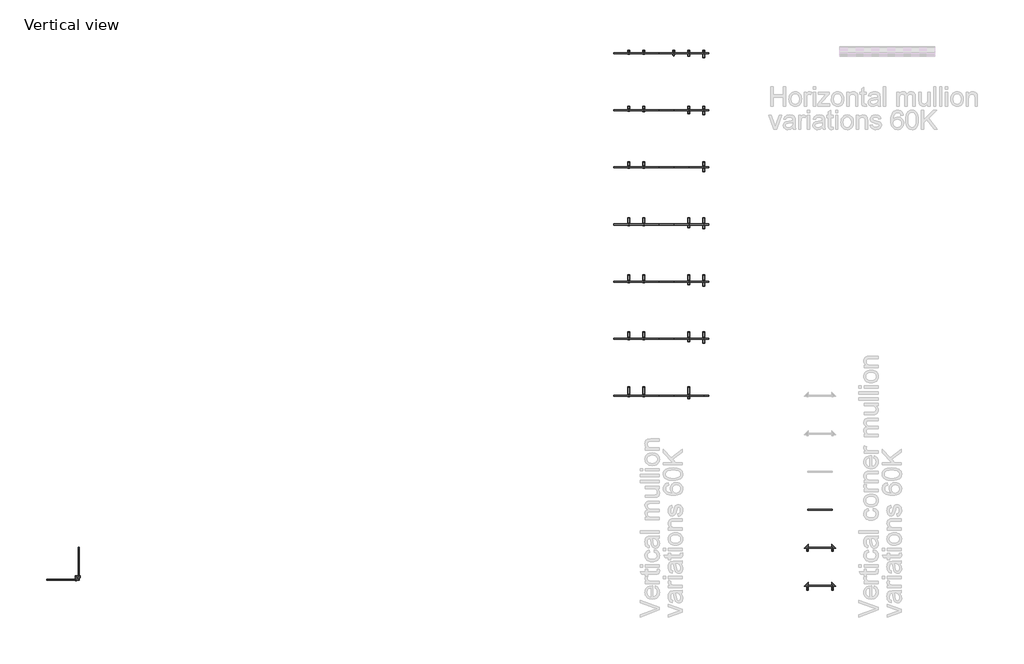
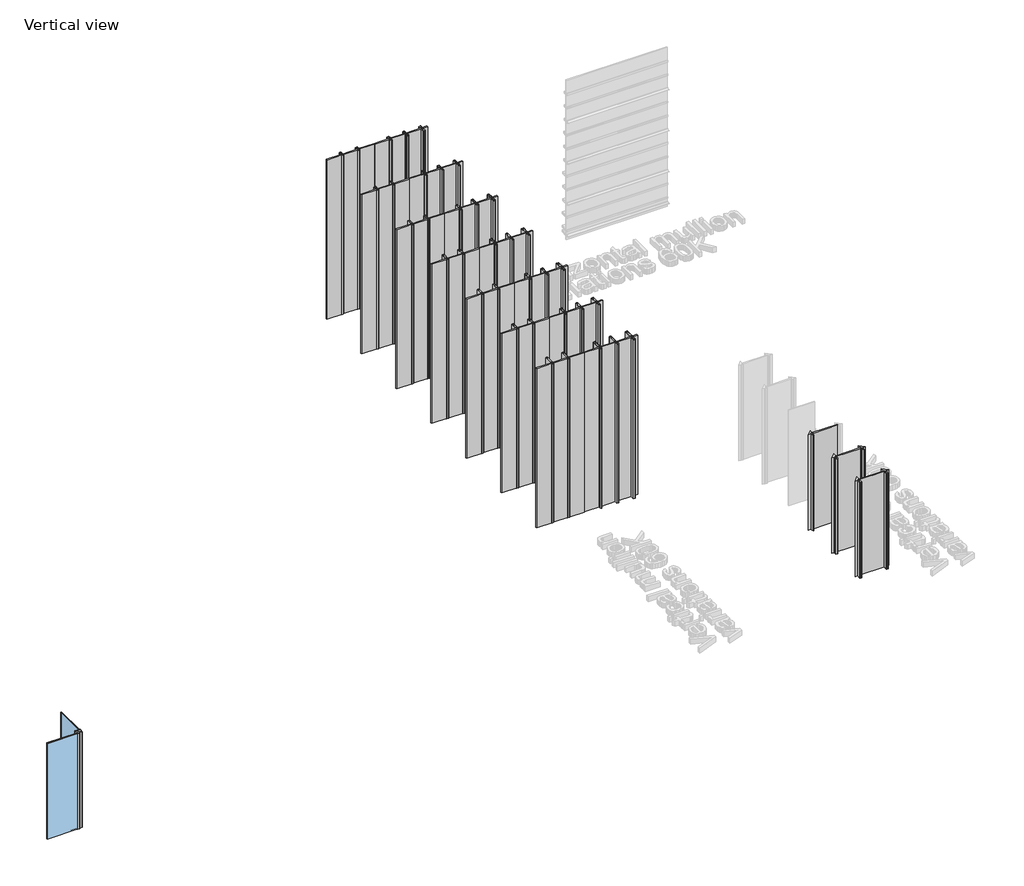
# One storey, part 1 of 8: 52 plates, 42 members, 2 windows.
"""IFC4 building model written with IfcOpenShell, lengths in millimetres."""

from ifc_helpers import new_model, si_unit, origin, place, context, project, spatial, transform, mapped, element, save
from components import rectangular_mullion_bac8aaa5, rectangular_mullion_d6cc62e9, rectangular_mullion_3a4dfd3a, rectangular_mullion_0c3e5d3c, rectangular_mullion_3d548132, rectangular_mullion_e379f3d9, rectangular_mullion_30acf88c, rectangular_mullion_7999ed0b, rectangular_mullion_8fff6d0e, rectangular_mullion_fmo60_118_fm60_11_780ca703, rectangular_mullion_fmo60_118_fm60_120_f7351382, rectangular_mullion_fmo60_118_fm60_17_fe835b84, rectangular_mullion_fmo60_118_fm60_80_52852f34, rectangular_mullion_fmo60_118_fm60_81_b4118012, rectangular_mullion_fmo60_200_fm60_11_f44af860, rectangular_mullion_fmo60_200_fm60_120_6c0fddd4, rectangular_mullion_fmo60_200_fm60_80_63721d11, rectangular_mullion_fmo60_200_fm60_81_2de17ba8, rectangular_mullion_fmo60_202_fm60_11_6de17c08, rectangular_mullion_fmo60_202_fm60_17_0408b8b0, rectangular_mullion_fmo60_202_fm60_80_f4d952df, rectangular_mullion_fmo60_202_fm60_81_e3a3c47a, rectangular_mullion_fmo60_270_fm60_11_9d2d0bc5, rectangular_mullion_fmo60_270_fm60_120_8979f5e6, rectangular_mullion_fmo60_270_fm60_17_746ea6a6, rectangular_mullion_fmo60_270_fm60_80_afe78c0d, rectangular_mullion_fmo60_270_fm60_81_629aa333, rectangular_mullion_fmo60_88_fm60_11_5c2764d4, rectangular_mullion_fmo60_88_fm60_120_b0ae386d, rectangular_mullion_fmo60_88_fm60_17_b492b851, rectangular_mullion_fmo60_88_fm60_80_312be118, rectangular_mullion_fmo60_88_fm60_81_48d1233b, rectangular_mullion_fmr60_158_fm60_11_8e278cfa, rectangular_mullion_fmr60_158_fm60_120_02d9d84b, rectangular_mullion_fmr60_158_fm60_80_e0a089fe, rectangular_mullion_fmr60_158_fm60_81_f3bf5128, system_panel_glazed_01cf7e5e, system_panel_glazed_74f318cf, system_panel_glazed_0bdd39fc, system_panel_glazed_34_mm_90ccc8ea, system_panel_glazed_cafef8f0, system_panel_glazed_6ac2c77d, system_panel_glazed_34_mm_9ade0035, system_panel_glazed_34_mm_0fb1e270, system_panel_glazed_65b8b972, system_panel_glazed_cb6aa243, system_panel_glazed_e2c861a8, fixed_panel_02_fixed_panel_02_689d1c14, fixed_panel_02_fixed_panel_02_342271db

model = new_model("IFC4")

# Units and contexts
model_context = context("Model", 3, world=origin())
ifc_project = project(units=[si_unit("LENGTHUNIT", "METRE", prefix="MILLI")], contexts=[model_context])

# Site, building, storey
site = spatial("IfcSite", under=ifc_project)
building = spatial("IfcBuilding", under=site)
storey = spatial("IfcBuildingStorey", under=building, Name="Vertical view", Elevation=0.0)

# Members
placement = place(None, origin())
rectangular_mullion_shape = rectangular_mullion_bac8aaa5(model_context)
element("IfcMember", 1, ObjectType="Rectangular Mullion : FMO60-200-S...FM60-11", at=placement, inside=storey, context=model_context, shape_type="MappedRepresentation", body=[
    mapped(rectangular_mullion_shape, transform((-2896.2455312, -11013.2711063, 0.0), x_axis=(1.0, 0.0, 0.0), y_axis=(0.0, -1.0, 0.0), z_axis=(0.0, 0.0, -1.0))),
])
rectangular_mullion_2_shape = rectangular_mullion_d6cc62e9(model_context)
element("IfcMember", 2, ObjectType="Rectangular Mullion : FMO60-200-S...FM60-17", at=placement, inside=storey, context=model_context, shape_type="MappedRepresentation", body=[
    mapped(rectangular_mullion_2_shape, transform((-2424.0455312, -11013.2711063, 0.0), x_axis=(1.0, 0.0, 0.0), y_axis=(0.0, -1.0, 0.0), z_axis=(0.0, 0.0, -1.0))),
])
rectangular_mullion_3_shape = rectangular_mullion_3a4dfd3a(model_context)
element("IfcMember", 3, ObjectType="Rectangular Mullion : FMO60-200-S...FM60-80", at=placement, inside=storey, context=model_context, shape_type="MappedRepresentation", body=[
    mapped(rectangular_mullion_3_shape, transform((-1479.6455312, -11013.2711063, 0.0), x_axis=(1.0, 0.0, 0.0), y_axis=(0.0, -1.0, 0.0), z_axis=(0.0, 0.0, -1.0))),
])
rectangular_mullion_4_shape = rectangular_mullion_0c3e5d3c(model_context)
element("IfcMember", 4, ObjectType="Rectangular Mullion : FMO60-200-S...FM60-81", at=placement, inside=storey, context=model_context, shape_type="MappedRepresentation", body=[
    mapped(rectangular_mullion_4_shape, transform((-1007.4455312, -11013.2711063, 0.0), x_axis=(1.0, 0.0, 0.0), y_axis=(0.0, -1.0, 0.0), z_axis=(0.0, 0.0, -1.0))),
])
rectangular_mullion_5_shape = rectangular_mullion_3d548132(model_context)
element("IfcMember", 5, ObjectType="Rectangular Mullion : FMO60-200-S...FM60-120", at=placement, inside=storey, context=model_context, shape_type="MappedRepresentation", body=[
    mapped(rectangular_mullion_5_shape, transform((-535.2455312, -11013.2711063, 0.0), x_axis=(1.0, 0.0, 0.0), y_axis=(0.0, -1.0, 0.0), z_axis=(0.0, 0.0, -1.0))),
])
rectangular_mullion_6_shape = rectangular_mullion_e379f3d9(model_context)
element("IfcMember", 6, ObjectType="Rectangular Mullion : FMO053...FM60-17_L", at=placement, inside=storey, context=model_context, shape_type="MappedRepresentation", body=[
    mapped(rectangular_mullion_6_shape, transform((-20253.1324225, -20427.219881, 3000.0), x_axis=(0.0, -1.0, 0.0), y_axis=(1.0, 0.0, 0.0), z_axis=(0.0, 0.0, 1.0))),
])
element("IfcMember", 7, ObjectType="Rectangular Mullion : FMO053...FM60-17_R", at=placement, inside=storey, context=model_context, shape_type="MappedRepresentation", body=[
    mapped(rectangular_mullion_6_shape, transform((-20219.1580351, -20393.2454936, 0.0), x_axis=(1.0, 0.0, 0.0), y_axis=(0.0, -1.0, 0.0), z_axis=(0.0, 0.0, -1.0))),
])
rectangular_mullion_7_shape = rectangular_mullion_30acf88c(model_context)
element("IfcMember", 8, ObjectType="Rectangular Mullion : FMO053...FM60-80_L", at=placement, inside=storey, context=model_context, shape_type="MappedRepresentation", body=[
    mapped(rectangular_mullion_7_shape, transform((2631.4544688, -18208.704744, 3000.0), x_axis=(-1.0, 0.0, 0.0), y_axis=(0.0, -1.0, 0.0), z_axis=(0.0, 0.0, 1.0))),
])
rectangular_mullion_8_shape = rectangular_mullion_7999ed0b(model_context)
element("IfcMember", 9, ObjectType="Rectangular Mullion : FMO053...FM60-81_L", at=placement, inside=storey, context=model_context, shape_type="MappedRepresentation", body=[
    mapped(rectangular_mullion_8_shape, transform((2631.4544688, -19408.704744, 3000.0), x_axis=(-1.0, 0.0, 0.0), y_axis=(0.0, -1.0, 0.0), z_axis=(0.0, 0.0, 1.0))),
])
element("IfcMember", 10, ObjectType="Rectangular Mullion : FMO053...FM60-81_R", at=placement, inside=storey, context=model_context, shape_type="MappedRepresentation", body=[
    mapped(rectangular_mullion_8_shape, transform((3631.4544688, -19408.704744, 0.0), x_axis=(1.0, 0.0, 0.0), y_axis=(0.0, -1.0, 0.0), z_axis=(0.0, 0.0, -1.0))),
])
rectangular_mullion_9_shape = rectangular_mullion_8fff6d0e(model_context)
element("IfcMember", 11, ObjectType="Rectangular Mullion : FMO053...FM60-120_L", at=placement, inside=storey, context=model_context, shape_type="MappedRepresentation", body=[
    mapped(rectangular_mullion_9_shape, transform((2631.4544688, -20608.704744, 3000.0), x_axis=(-1.0, 0.0, 0.0), y_axis=(0.0, -1.0, 0.0), z_axis=(0.0, 0.0, 1.0))),
])
element("IfcMember", 12, ObjectType="Rectangular Mullion : FMO053...FM60-120_R", at=placement, inside=storey, context=model_context, shape_type="MappedRepresentation", body=[
    mapped(rectangular_mullion_9_shape, transform((3631.4544688, -20608.704744, 0.0), x_axis=(1.0, 0.0, 0.0), y_axis=(0.0, -1.0, 0.0), z_axis=(0.0, 0.0, -1.0))),
])
rectangular_mullion_fmo60_118_fm60_11_shape = rectangular_mullion_fmo60_118_fm60_11_780ca703(model_context)
element("IfcMember", 13, ObjectType="Rectangular Mullion : FMO60-118...FM60-11", at=placement, inside=storey, context=model_context, shape_type="MappedRepresentation", body=[
    mapped(rectangular_mullion_fmo60_118_fm60_11_shape, transform((-2896.323309, -5613.2711063, 0.0), x_axis=(1.0, 0.0, 0.0), y_axis=(0.0, -1.0, 0.0), z_axis=(0.0, 0.0, -1.0))),
])
rectangular_mullion_fmo60_118_fm60_120_shape = rectangular_mullion_fmo60_118_fm60_120_f7351382(model_context)
element("IfcMember", 14, ObjectType="Rectangular Mullion : FMO60-118...FM60-120", at=placement, inside=storey, context=model_context, shape_type="MappedRepresentation", body=[
    mapped(rectangular_mullion_fmo60_118_fm60_120_shape, transform((-535.2121979, -5613.2711063, 0.0), x_axis=(1.0, 0.0, 0.0), y_axis=(0.0, -1.0, 0.0), z_axis=(0.0, 0.0, -1.0))),
])
rectangular_mullion_fmo60_118_fm60_17_shape = rectangular_mullion_fmo60_118_fm60_17_fe835b84(model_context)
element("IfcMember", 15, ObjectType="Rectangular Mullion : FMO60-118...FM60-17", at=placement, inside=storey, context=model_context, shape_type="MappedRepresentation", body=[
    mapped(rectangular_mullion_fmo60_118_fm60_17_shape, transform((-2424.1010868, -5613.2711063, 0.0), x_axis=(1.0, 0.0, 0.0), y_axis=(0.0, -1.0, 0.0), z_axis=(0.0, 0.0, -1.0))),
])
rectangular_mullion_fmo60_118_fm60_80_shape = rectangular_mullion_fmo60_118_fm60_80_52852f34(model_context)
element("IfcMember", 16, ObjectType="Rectangular Mullion : FMO60-118...FM60-80", at=placement, inside=storey, context=model_context, shape_type="MappedRepresentation", body=[
    mapped(rectangular_mullion_fmo60_118_fm60_80_shape, transform((-1479.6566423, -5613.2711063, 0.0), x_axis=(1.0, 0.0, 0.0), y_axis=(0.0, -1.0, 0.0), z_axis=(0.0, 0.0, -1.0))),
])
rectangular_mullion_fmo60_118_fm60_81_shape = rectangular_mullion_fmo60_118_fm60_81_b4118012(model_context)
element("IfcMember", 17, ObjectType="Rectangular Mullion : FMO60-118...FM60-81", at=placement, inside=storey, context=model_context, shape_type="MappedRepresentation", body=[
    mapped(rectangular_mullion_fmo60_118_fm60_81_shape, transform((-1007.4344201, -5613.2711063, 0.0), x_axis=(1.0, 0.0, 0.0), y_axis=(0.0, -1.0, 0.0), z_axis=(0.0, 0.0, -1.0))),
])
rectangular_mullion_fmo60_200_fm60_11_shape = rectangular_mullion_fmo60_200_fm60_11_f44af860(model_context)
element("IfcMember", 18, ObjectType="Rectangular Mullion : FMO60-200...FM60-11", at=placement, inside=storey, context=model_context, shape_type="MappedRepresentation", body=[
    mapped(rectangular_mullion_fmo60_200_fm60_11_shape, transform((-2896.2455312, -9213.2711063, 0.0), x_axis=(1.0, 0.0, 0.0), y_axis=(0.0, -1.0, 0.0), z_axis=(0.0, 0.0, -1.0))),
])
rectangular_mullion_fmo60_200_fm60_120_shape = rectangular_mullion_fmo60_200_fm60_120_6c0fddd4(model_context)
element("IfcMember", 19, ObjectType="Rectangular Mullion : FMO60-200...FM60-120", at=placement, inside=storey, context=model_context, shape_type="MappedRepresentation", body=[
    mapped(rectangular_mullion_fmo60_200_fm60_120_shape, transform((-535.2455312, -9213.2711063, 0.0), x_axis=(1.0, 0.0, 0.0), y_axis=(0.0, -1.0, 0.0), z_axis=(0.0, 0.0, -1.0))),
])
element("IfcMember", 20, ObjectType="Rectangular Mullion : FMO60-200...FM60-120", at=placement, inside=storey, context=model_context, shape_type="MappedRepresentation", body=[
    mapped(rectangular_mullion_fmo60_200_fm60_120_shape, transform((-535.2455312, -12813.2711063, 0.0), x_axis=(1.0, 0.0, 0.0), y_axis=(0.0, -1.0, 0.0), z_axis=(0.0, 0.0, -1.0))),
])
element("IfcMember", 21, ObjectType="Rectangular Mullion : FMO60-200...FM60-17", at=placement, inside=storey, context=model_context, shape_type="MappedRepresentation", body=[
    mapped(rectangular_mullion_2_shape, transform((-2424.0455312, -9213.2711063, 0.0), x_axis=(1.0, 0.0, 0.0), y_axis=(0.0, -1.0, 0.0), z_axis=(0.0, 0.0, -1.0))),
])
rectangular_mullion_fmo60_200_fm60_80_shape = rectangular_mullion_fmo60_200_fm60_80_63721d11(model_context)
element("IfcMember", 22, ObjectType="Rectangular Mullion : FMO60-200...FM60-80", at=placement, inside=storey, context=model_context, shape_type="MappedRepresentation", body=[
    mapped(rectangular_mullion_fmo60_200_fm60_80_shape, transform((-1479.6455312, -9213.2711063, 0.0), x_axis=(1.0, 0.0, 0.0), y_axis=(0.0, -1.0, 0.0), z_axis=(0.0, 0.0, -1.0))),
])
rectangular_mullion_fmo60_200_fm60_81_shape = rectangular_mullion_fmo60_200_fm60_81_2de17ba8(model_context)
element("IfcMember", 23, ObjectType="Rectangular Mullion : FMO60-200...FM60-81", at=placement, inside=storey, context=model_context, shape_type="MappedRepresentation", body=[
    mapped(rectangular_mullion_fmo60_200_fm60_81_shape, transform((-1007.4455312, -9213.2711063, 0.0), x_axis=(1.0, 0.0, 0.0), y_axis=(0.0, -1.0, 0.0), z_axis=(0.0, 0.0, -1.0))),
])
rectangular_mullion_fmo60_202_fm60_11_shape = rectangular_mullion_fmo60_202_fm60_11_6de17c08(model_context)
element("IfcMember", 24, ObjectType="Rectangular Mullion : FMO60-202...FM60-11", at=placement, inside=storey, context=model_context, shape_type="MappedRepresentation", body=[
    mapped(rectangular_mullion_fmo60_202_fm60_11_shape, transform((-2896.3288645, -12813.2711063, 0.0), x_axis=(1.0, 0.0, 0.0), y_axis=(0.0, -1.0, 0.0), z_axis=(0.0, 0.0, -1.0))),
])
rectangular_mullion_fmo60_202_fm60_17_shape = rectangular_mullion_fmo60_202_fm60_17_0408b8b0(model_context)
element("IfcMember", 25, ObjectType="Rectangular Mullion : FMO60-202...FM60-17", at=placement, inside=storey, context=model_context, shape_type="MappedRepresentation", body=[
    mapped(rectangular_mullion_fmo60_202_fm60_17_shape, transform((-2424.1121979, -12813.2711063, 0.0), x_axis=(1.0, 0.0, 0.0), y_axis=(0.0, -1.0, 0.0), z_axis=(0.0, 0.0, -1.0))),
])
rectangular_mullion_fmo60_202_fm60_80_shape = rectangular_mullion_fmo60_202_fm60_80_f4d952df(model_context)
element("IfcMember", 26, ObjectType="Rectangular Mullion : FMO60-202...FM60-80", at=placement, inside=storey, context=model_context, shape_type="MappedRepresentation", body=[
    mapped(rectangular_mullion_fmo60_202_fm60_80_shape, transform((-1479.6788645, -12813.2711063, 0.0), x_axis=(1.0, 0.0, 0.0), y_axis=(0.0, -1.0, 0.0), z_axis=(0.0, 0.0, -1.0))),
])
rectangular_mullion_fmo60_202_fm60_81_shape = rectangular_mullion_fmo60_202_fm60_81_e3a3c47a(model_context)
element("IfcMember", 27, ObjectType="Rectangular Mullion : FMO60-202...FM60-81", at=placement, inside=storey, context=model_context, shape_type="MappedRepresentation", body=[
    mapped(rectangular_mullion_fmo60_202_fm60_81_shape, transform((-1007.4621979, -12813.2711063, 0.0), x_axis=(1.0, 0.0, 0.0), y_axis=(0.0, -1.0, 0.0), z_axis=(0.0, 0.0, -1.0))),
])
rectangular_mullion_fmo60_270_fm60_11_shape = rectangular_mullion_fmo60_270_fm60_11_9d2d0bc5(model_context)
element("IfcMember", 28, ObjectType="Rectangular Mullion : FMO60-270...FM60-11", at=placement, inside=storey, context=model_context, shape_type="MappedRepresentation", body=[
    mapped(rectangular_mullion_fmo60_270_fm60_11_shape, transform((-2896.0455312, -14613.2711063, 0.0), x_axis=(1.0, 0.0, 0.0), y_axis=(0.0, -1.0, 0.0), z_axis=(0.0, 0.0, -1.0))),
])
rectangular_mullion_fmo60_270_fm60_120_shape = rectangular_mullion_fmo60_270_fm60_120_8979f5e6(model_context)
element("IfcMember", 29, ObjectType="Rectangular Mullion : FMO60-270...FM60-120", at=placement, inside=storey, context=model_context, shape_type="MappedRepresentation", body=[
    mapped(rectangular_mullion_fmo60_270_fm60_120_shape, transform((-535.2455312, -14613.2711063, 0.0), x_axis=(1.0, 0.0, 0.0), y_axis=(0.0, -1.0, 0.0), z_axis=(0.0, 0.0, -1.0))),
])
rectangular_mullion_fmo60_270_fm60_17_shape = rectangular_mullion_fmo60_270_fm60_17_746ea6a6(model_context)
element("IfcMember", 30, ObjectType="Rectangular Mullion : FMO60-270...FM60-17", at=placement, inside=storey, context=model_context, shape_type="MappedRepresentation", body=[
    mapped(rectangular_mullion_fmo60_270_fm60_17_shape, transform((-2423.8455312, -14613.2711063, 0.0), x_axis=(1.0, 0.0, 0.0), y_axis=(0.0, -1.0, 0.0), z_axis=(0.0, 0.0, -1.0))),
])
rectangular_mullion_fmo60_270_fm60_80_shape = rectangular_mullion_fmo60_270_fm60_80_afe78c0d(model_context)
element("IfcMember", 31, ObjectType="Rectangular Mullion : FMO60-270...FM60-80", at=placement, inside=storey, context=model_context, shape_type="MappedRepresentation", body=[
    mapped(rectangular_mullion_fmo60_270_fm60_80_shape, transform((-1479.6455312, -14613.2711063, 0.0), x_axis=(1.0, 0.0, 0.0), y_axis=(0.0, -1.0, 0.0), z_axis=(0.0, 0.0, -1.0))),
])
rectangular_mullion_fmo60_270_fm60_81_shape = rectangular_mullion_fmo60_270_fm60_81_629aa333(model_context)
element("IfcMember", 32, ObjectType="Rectangular Mullion : FMO60-270...FM60-81", at=placement, inside=storey, context=model_context, shape_type="MappedRepresentation", body=[
    mapped(rectangular_mullion_fmo60_270_fm60_81_shape, transform((-1007.4455312, -14613.2711063, 0.0), x_axis=(1.0, 0.0, 0.0), y_axis=(0.0, -1.0, 0.0), z_axis=(0.0, 0.0, -1.0))),
])
rectangular_mullion_fmo60_88_fm60_11_shape = rectangular_mullion_fmo60_88_fm60_11_5c2764d4(model_context)
element("IfcMember", 33, ObjectType="Rectangular Mullion : FMO60-88...FM60-11", at=placement, inside=storey, context=model_context, shape_type="MappedRepresentation", body=[
    mapped(rectangular_mullion_fmo60_88_fm60_11_shape, transform((-2896.3288645, -3813.2711063, 0.0), x_axis=(1.0, 0.0, 0.0), y_axis=(0.0, -1.0, 0.0), z_axis=(0.0, 0.0, -1.0))),
])
rectangular_mullion_fmo60_88_fm60_120_shape = rectangular_mullion_fmo60_88_fm60_120_b0ae386d(model_context)
element("IfcMember", 34, ObjectType="Rectangular Mullion : FMO60-88...FM60-120", at=placement, inside=storey, context=model_context, shape_type="MappedRepresentation", body=[
    mapped(rectangular_mullion_fmo60_88_fm60_120_shape, transform((-535.2455312, -3813.2711063, 0.0), x_axis=(1.0, 0.0, 0.0), y_axis=(0.0, -1.0, 0.0), z_axis=(0.0, 0.0, -1.0))),
])
rectangular_mullion_fmo60_88_fm60_17_shape = rectangular_mullion_fmo60_88_fm60_17_b492b851(model_context)
element("IfcMember", 35, ObjectType="Rectangular Mullion : FMO60-88...FM60-17", at=placement, inside=storey, context=model_context, shape_type="MappedRepresentation", body=[
    mapped(rectangular_mullion_fmo60_88_fm60_17_shape, transform((-2424.1121979, -3813.2711063, 0.0), x_axis=(1.0, 0.0, 0.0), y_axis=(0.0, -1.0, 0.0), z_axis=(0.0, 0.0, -1.0))),
])
rectangular_mullion_fmo60_88_fm60_80_shape = rectangular_mullion_fmo60_88_fm60_80_312be118(model_context)
element("IfcMember", 36, ObjectType="Rectangular Mullion : FMO60-88...FM60-80", at=placement, inside=storey, context=model_context, shape_type="MappedRepresentation", body=[
    mapped(rectangular_mullion_fmo60_88_fm60_80_shape, transform((-1479.6788645, -3813.2711063, 0.0), x_axis=(1.0, 0.0, 0.0), y_axis=(0.0, -1.0, 0.0), z_axis=(0.0, 0.0, -1.0))),
])
rectangular_mullion_fmo60_88_fm60_81_shape = rectangular_mullion_fmo60_88_fm60_81_48d1233b(model_context)
element("IfcMember", 37, ObjectType="Rectangular Mullion : FMO60-88...FM60-81", at=placement, inside=storey, context=model_context, shape_type="MappedRepresentation", body=[
    mapped(rectangular_mullion_fmo60_88_fm60_81_shape, transform((-1007.4621979, -3813.2711063, 0.0), x_axis=(1.0, 0.0, 0.0), y_axis=(0.0, -1.0, 0.0), z_axis=(0.0, 0.0, -1.0))),
])
rectangular_mullion_fmr60_158_fm60_11_shape = rectangular_mullion_fmr60_158_fm60_11_8e278cfa(model_context)
element("IfcMember", 38, ObjectType="Rectangular Mullion : FMR60-158...FM60-11", at=placement, inside=storey, context=model_context, shape_type="MappedRepresentation", body=[
    mapped(rectangular_mullion_fmr60_158_fm60_11_shape, transform((-2896.2455312, -7413.2711063, 0.0), x_axis=(1.0, 0.0, 0.0), y_axis=(0.0, -1.0, 0.0), z_axis=(0.0, 0.0, -1.0))),
])
rectangular_mullion_fmr60_158_fm60_120_shape = rectangular_mullion_fmr60_158_fm60_120_02d9d84b(model_context)
element("IfcMember", 39, ObjectType="Rectangular Mullion : FMR60-158...FM60-120", at=placement, inside=storey, context=model_context, shape_type="MappedRepresentation", body=[
    mapped(rectangular_mullion_fmr60_158_fm60_120_shape, transform((-535.2455312, -7413.2711063, 0.0), x_axis=(1.0, 0.0, 0.0), y_axis=(0.0, -1.0, 0.0), z_axis=(0.0, 0.0, -1.0))),
])
element("IfcMember", 40, ObjectType="Rectangular Mullion : FMR60-158...FM60-17", at=placement, inside=storey, context=model_context, shape_type="MappedRepresentation", body=[
    mapped(rectangular_mullion_fmr60_158_fm60_11_shape, transform((-2424.0455312, -7413.2711063, 0.0), x_axis=(1.0, 0.0, 0.0), y_axis=(0.0, -1.0, 0.0), z_axis=(0.0, 0.0, -1.0))),
])
rectangular_mullion_fmr60_158_fm60_80_shape = rectangular_mullion_fmr60_158_fm60_80_e0a089fe(model_context)
element("IfcMember", 41, ObjectType="Rectangular Mullion : FMR60-158...FM60-80", at=placement, inside=storey, context=model_context, shape_type="MappedRepresentation", body=[
    mapped(rectangular_mullion_fmr60_158_fm60_80_shape, transform((-1479.6455312, -7413.2711063, 0.0), x_axis=(1.0, 0.0, 0.0), y_axis=(0.0, -1.0, 0.0), z_axis=(0.0, 0.0, -1.0))),
])
rectangular_mullion_fmr60_158_fm60_81_shape = rectangular_mullion_fmr60_158_fm60_81_f3bf5128(model_context)
element("IfcMember", 42, ObjectType="Rectangular Mullion : FMR60-158...FM60-81", at=placement, inside=storey, context=model_context, shape_type="MappedRepresentation", body=[
    mapped(rectangular_mullion_fmr60_158_fm60_81_shape, transform((-1007.4455312, -7413.2711063, 0.0), x_axis=(1.0, 0.0, 0.0), y_axis=(0.0, -1.0, 0.0), z_axis=(0.0, 0.0, -1.0))),
])

# Plates
system_panel_glazed_shape = system_panel_glazed_01cf7e5e(model_context)
element("IfcPlate", 43, ObjectType="System Panel : Glazed", at=placement, inside=storey, context=model_context, shape_type="MappedRepresentation", body=[
    mapped(system_panel_glazed_shape, transform((-449.3788645, -5613.2711063, 0.0), x_axis=(1.0, 0.0, 0.0), y_axis=(0.0, 1.0, 0.0), z_axis=(0.0, 0.0, 1.0))),
])
system_panel_glazed_2_shape = system_panel_glazed_74f318cf(model_context)
element("IfcPlate", 44, ObjectType="System Panel : Glazed", at=placement, inside=storey, context=model_context, shape_type="MappedRepresentation", body=[
    mapped(system_panel_glazed_2_shape, transform((-3134.9344201, -5613.2711063, 0.0), x_axis=(1.0, 0.0, 0.0), y_axis=(0.0, 1.0, 0.0), z_axis=(0.0, 0.0, 1.0))),
])
system_panel_glazed_3_shape = system_panel_glazed_0bdd39fc(model_context)
element("IfcPlate", 45, ObjectType="System Panel : Glazed", at=placement, inside=storey, context=model_context, shape_type="MappedRepresentation", body=[
    mapped(system_panel_glazed_3_shape, transform((-2660.2121979, -5613.2711063, 0.0), x_axis=(1.0, 0.0, 0.0), y_axis=(0.0, 1.0, 0.0), z_axis=(0.0, 0.0, 1.0))),
])
element("IfcPlate", 46, ObjectType="System Panel : Glazed", at=placement, inside=storey, context=model_context, shape_type="MappedRepresentation", body=[
    mapped(system_panel_glazed_3_shape, transform((-771.323309, -5613.2711063, 0.0), x_axis=(1.0, 0.0, 0.0), y_axis=(0.0, 1.0, 0.0), z_axis=(0.0, 0.0, 1.0))),
])
element("IfcPlate", 47, ObjectType="System Panel : Glazed", at=placement, inside=storey, context=model_context, shape_type="MappedRepresentation", body=[
    mapped(system_panel_glazed_3_shape, transform((-2187.9899756, -5613.2711063, 0.0), x_axis=(1.0, 0.0, 0.0), y_axis=(0.0, 1.0, 0.0), z_axis=(0.0, 0.0, 1.0))),
])
element("IfcPlate", 48, ObjectType="System Panel : Glazed", at=placement, inside=storey, context=model_context, shape_type="MappedRepresentation", body=[
    mapped(system_panel_glazed_3_shape, transform((-1715.7677534, -5613.2711063, 0.0), x_axis=(1.0, 0.0, 0.0), y_axis=(0.0, 1.0, 0.0), z_axis=(0.0, 0.0, 1.0))),
])
element("IfcPlate", 49, ObjectType="System Panel : Glazed", at=placement, inside=storey, context=model_context, shape_type="MappedRepresentation", body=[
    mapped(system_panel_glazed_3_shape, transform((-1243.5455312, -5613.2711063, 0.0), x_axis=(1.0, 0.0, 0.0), y_axis=(0.0, 1.0, 0.0), z_axis=(0.0, 0.0, 1.0))),
])
system_panel_glazed_34_mm_shape = system_panel_glazed_34_mm_90ccc8ea(model_context)
element("IfcPlate", 50, ObjectType="System Panel : Glazed", at=placement, inside=storey, context=model_context, shape_type="MappedRepresentation", body=[
    mapped(system_panel_glazed_34_mm_shape, transform((-449.3955312, -7413.2711063, 0.0), x_axis=(1.0, 0.0, 0.0), y_axis=(0.0, 1.0, 0.0), z_axis=(0.0, 0.0, 1.0))),
])
element("IfcPlate", 51, ObjectType="System Panel : Glazed", at=placement, inside=storey, context=model_context, shape_type="MappedRepresentation", body=[
    mapped(system_panel_glazed_34_mm_shape, transform((-449.3955312, -9213.2711063, 0.0), x_axis=(1.0, 0.0, 0.0), y_axis=(0.0, 1.0, 0.0), z_axis=(0.0, 0.0, 1.0))),
])
element("IfcPlate", 52, ObjectType="System Panel : Glazed", at=placement, inside=storey, context=model_context, shape_type="MappedRepresentation", body=[
    mapped(system_panel_glazed_34_mm_shape, transform((-449.3955312, -11013.2711063, 0.0), x_axis=(1.0, 0.0, 0.0), y_axis=(0.0, 1.0, 0.0), z_axis=(0.0, 0.0, 1.0))),
])
element("IfcPlate", 53, ObjectType="System Panel : Glazed", at=placement, inside=storey, context=model_context, shape_type="MappedRepresentation", body=[
    mapped(system_panel_glazed_34_mm_shape, transform((-449.3955312, -12813.2711063, 0.0), x_axis=(1.0, 0.0, 0.0), y_axis=(0.0, 1.0, 0.0), z_axis=(0.0, 0.0, 1.0))),
])
element("IfcPlate", 54, ObjectType="System Panel : Glazed", at=placement, inside=storey, context=model_context, shape_type="MappedRepresentation", body=[
    mapped(system_panel_glazed_34_mm_shape, transform((-449.3955312, -14613.2711063, 0.0), x_axis=(1.0, 0.0, 0.0), y_axis=(0.0, 1.0, 0.0), z_axis=(0.0, 0.0, 1.0))),
])
system_panel_glazed_4_shape = system_panel_glazed_cafef8f0(model_context)
element("IfcPlate", 55, ObjectType="System Panel : Glazed", at=placement, inside=storey, context=model_context, shape_type="MappedRepresentation", body=[
    mapped(system_panel_glazed_4_shape, transform((-2660.1455312, -7413.2711063, 0.0), x_axis=(1.0, 0.0, 0.0), y_axis=(0.0, 1.0, 0.0), z_axis=(0.0, 0.0, 1.0))),
])
element("IfcPlate", 56, ObjectType="System Panel : Glazed", at=placement, inside=storey, context=model_context, shape_type="MappedRepresentation", body=[
    mapped(system_panel_glazed_4_shape, transform((-2187.9455312, -7413.2711063, 0.0), x_axis=(1.0, 0.0, 0.0), y_axis=(0.0, 1.0, 0.0), z_axis=(0.0, 0.0, 1.0))),
])
element("IfcPlate", 57, ObjectType="System Panel : Glazed", at=placement, inside=storey, context=model_context, shape_type="MappedRepresentation", body=[
    mapped(system_panel_glazed_4_shape, transform((-1715.7455312, -7413.2711063, 0.0), x_axis=(1.0, 0.0, 0.0), y_axis=(0.0, 1.0, 0.0), z_axis=(0.0, 0.0, 1.0))),
])
element("IfcPlate", 58, ObjectType="System Panel : Glazed", at=placement, inside=storey, context=model_context, shape_type="MappedRepresentation", body=[
    mapped(system_panel_glazed_4_shape, transform((-1243.5455312, -7413.2711063, 0.0), x_axis=(1.0, 0.0, 0.0), y_axis=(0.0, 1.0, 0.0), z_axis=(0.0, 0.0, 1.0))),
])
element("IfcPlate", 59, ObjectType="System Panel : Glazed", at=placement, inside=storey, context=model_context, shape_type="MappedRepresentation", body=[
    mapped(system_panel_glazed_4_shape, transform((-771.3455312, -7413.2711063, 0.0), x_axis=(1.0, 0.0, 0.0), y_axis=(0.0, 1.0, 0.0), z_axis=(0.0, 0.0, 1.0))),
])
element("IfcPlate", 60, ObjectType="System Panel : Glazed", at=placement, inside=storey, context=model_context, shape_type="MappedRepresentation", body=[
    mapped(system_panel_glazed_4_shape, transform((-2660.1455312, -9213.2711063, 0.0), x_axis=(1.0, 0.0, 0.0), y_axis=(0.0, 1.0, 0.0), z_axis=(0.0, 0.0, 1.0))),
])
element("IfcPlate", 61, ObjectType="System Panel : Glazed", at=placement, inside=storey, context=model_context, shape_type="MappedRepresentation", body=[
    mapped(system_panel_glazed_4_shape, transform((-2187.9455312, -9213.2711063, 0.0), x_axis=(1.0, 0.0, 0.0), y_axis=(0.0, 1.0, 0.0), z_axis=(0.0, 0.0, 1.0))),
])
element("IfcPlate", 62, ObjectType="System Panel : Glazed", at=placement, inside=storey, context=model_context, shape_type="MappedRepresentation", body=[
    mapped(system_panel_glazed_4_shape, transform((-1715.7455312, -9213.2711063, 0.0), x_axis=(1.0, 0.0, 0.0), y_axis=(0.0, 1.0, 0.0), z_axis=(0.0, 0.0, 1.0))),
])
element("IfcPlate", 63, ObjectType="System Panel : Glazed", at=placement, inside=storey, context=model_context, shape_type="MappedRepresentation", body=[
    mapped(system_panel_glazed_4_shape, transform((-1243.5455312, -9213.2711063, 0.0), x_axis=(1.0, 0.0, 0.0), y_axis=(0.0, 1.0, 0.0), z_axis=(0.0, 0.0, 1.0))),
])
element("IfcPlate", 64, ObjectType="System Panel : Glazed", at=placement, inside=storey, context=model_context, shape_type="MappedRepresentation", body=[
    mapped(system_panel_glazed_4_shape, transform((-771.3455312, -9213.2711063, 0.0), x_axis=(1.0, 0.0, 0.0), y_axis=(0.0, 1.0, 0.0), z_axis=(0.0, 0.0, 1.0))),
])
element("IfcPlate", 65, ObjectType="System Panel : Glazed", at=placement, inside=storey, context=model_context, shape_type="MappedRepresentation", body=[
    mapped(system_panel_glazed_4_shape, transform((-2660.1455312, -11013.2711063, 0.0), x_axis=(1.0, 0.0, 0.0), y_axis=(0.0, 1.0, 0.0), z_axis=(0.0, 0.0, 1.0))),
])
element("IfcPlate", 66, ObjectType="System Panel : Glazed", at=placement, inside=storey, context=model_context, shape_type="MappedRepresentation", body=[
    mapped(system_panel_glazed_4_shape, transform((-2187.9455312, -11013.2711063, 0.0), x_axis=(1.0, 0.0, 0.0), y_axis=(0.0, 1.0, 0.0), z_axis=(0.0, 0.0, 1.0))),
])
element("IfcPlate", 67, ObjectType="System Panel : Glazed", at=placement, inside=storey, context=model_context, shape_type="MappedRepresentation", body=[
    mapped(system_panel_glazed_4_shape, transform((-1715.7455312, -11013.2711063, 0.0), x_axis=(1.0, 0.0, 0.0), y_axis=(0.0, 1.0, 0.0), z_axis=(0.0, 0.0, 1.0))),
])
element("IfcPlate", 68, ObjectType="System Panel : Glazed", at=placement, inside=storey, context=model_context, shape_type="MappedRepresentation", body=[
    mapped(system_panel_glazed_4_shape, transform((-1243.5455312, -11013.2711063, 0.0), x_axis=(1.0, 0.0, 0.0), y_axis=(0.0, 1.0, 0.0), z_axis=(0.0, 0.0, 1.0))),
])
element("IfcPlate", 69, ObjectType="System Panel : Glazed", at=placement, inside=storey, context=model_context, shape_type="MappedRepresentation", body=[
    mapped(system_panel_glazed_4_shape, transform((-771.3455312, -11013.2711063, 0.0), x_axis=(1.0, 0.0, 0.0), y_axis=(0.0, 1.0, 0.0), z_axis=(0.0, 0.0, 1.0))),
])
element("IfcPlate", 70, ObjectType="System Panel : Glazed", at=placement, inside=storey, context=model_context, shape_type="MappedRepresentation", body=[
    mapped(system_panel_glazed_4_shape, transform((-2659.9455312, -14613.2711063, 0.0), x_axis=(1.0, 0.0, 0.0), y_axis=(0.0, 1.0, 0.0), z_axis=(0.0, 0.0, 1.0))),
])
element("IfcPlate", 71, ObjectType="System Panel : Glazed", at=placement, inside=storey, context=model_context, shape_type="MappedRepresentation", body=[
    mapped(system_panel_glazed_4_shape, transform((-2187.7455312, -14613.2711063, 0.0), x_axis=(1.0, 0.0, 0.0), y_axis=(0.0, 1.0, 0.0), z_axis=(0.0, 0.0, 1.0))),
])
element("IfcPlate", 72, ObjectType="System Panel : Glazed", at=placement, inside=storey, context=model_context, shape_type="MappedRepresentation", body=[
    mapped(system_panel_glazed_4_shape, transform((-1243.5455312, -14613.2711063, 0.0), x_axis=(1.0, 0.0, 0.0), y_axis=(0.0, 1.0, 0.0), z_axis=(0.0, 0.0, 1.0))),
])
element("IfcPlate", 73, ObjectType="System Panel : Glazed", at=placement, inside=storey, context=model_context, shape_type="MappedRepresentation", body=[
    mapped(system_panel_glazed_4_shape, transform((-771.3455312, -14613.2711063, 0.0), x_axis=(1.0, 0.0, 0.0), y_axis=(0.0, 1.0, 0.0), z_axis=(0.0, 0.0, 1.0))),
])
system_panel_glazed_5_shape = system_panel_glazed_6ac2c77d(model_context)
element("IfcPlate", 74, ObjectType="System Panel : Glazed", at=placement, inside=storey, context=model_context, shape_type="MappedRepresentation", body=[
    mapped(system_panel_glazed_5_shape, transform((-3134.8955312, -7413.2711063, 0.0), x_axis=(1.0, 0.0, 0.0), y_axis=(0.0, 1.0, 0.0), z_axis=(0.0, 0.0, 1.0))),
])
element("IfcPlate", 75, ObjectType="System Panel : Glazed", at=placement, inside=storey, context=model_context, shape_type="MappedRepresentation", body=[
    mapped(system_panel_glazed_5_shape, transform((-3134.8955312, -9213.2711063, 0.0), x_axis=(1.0, 0.0, 0.0), y_axis=(0.0, 1.0, 0.0), z_axis=(0.0, 0.0, 1.0))),
])
element("IfcPlate", 76, ObjectType="System Panel : Glazed", at=placement, inside=storey, context=model_context, shape_type="MappedRepresentation", body=[
    mapped(system_panel_glazed_5_shape, transform((-3134.8955312, -11013.2711063, 0.0), x_axis=(1.0, 0.0, 0.0), y_axis=(0.0, 1.0, 0.0), z_axis=(0.0, 0.0, 1.0))),
])
system_panel_glazed_34_mm_2_shape = system_panel_glazed_34_mm_9ade0035(model_context)
element("IfcPlate", 77, ObjectType="System Panel : Glazed", at=placement, inside=storey, context=model_context, shape_type="MappedRepresentation", body=[
    mapped(system_panel_glazed_34_mm_2_shape, transform((-3134.9371979, -12813.2711063, 0.0), x_axis=(1.0, 0.0, 0.0), y_axis=(0.0, 1.0, 0.0), z_axis=(0.0, 0.0, 1.0))),
])
system_panel_glazed_34_mm_3_shape = system_panel_glazed_34_mm_0fb1e270(model_context)
element("IfcPlate", 78, ObjectType="System Panel : Glazed", at=placement, inside=storey, context=model_context, shape_type="MappedRepresentation", body=[
    mapped(system_panel_glazed_34_mm_3_shape, transform((-2660.2205312, -12813.2711063, 0.0), x_axis=(1.0, 0.0, 0.0), y_axis=(0.0, 1.0, 0.0), z_axis=(0.0, 0.0, 1.0))),
])
element("IfcPlate", 79, ObjectType="System Panel : Glazed", at=placement, inside=storey, context=model_context, shape_type="MappedRepresentation", body=[
    mapped(system_panel_glazed_34_mm_3_shape, transform((-2188.0038645, -12813.2711063, 0.0), x_axis=(1.0, 0.0, 0.0), y_axis=(0.0, 1.0, 0.0), z_axis=(0.0, 0.0, 1.0))),
])
element("IfcPlate", 80, ObjectType="System Panel : Glazed", at=placement, inside=storey, context=model_context, shape_type="MappedRepresentation", body=[
    mapped(system_panel_glazed_34_mm_3_shape, transform((-1715.7871979, -12813.2711063, 0.0), x_axis=(1.0, 0.0, 0.0), y_axis=(0.0, 1.0, 0.0), z_axis=(0.0, 0.0, 1.0))),
])
element("IfcPlate", 81, ObjectType="System Panel : Glazed", at=placement, inside=storey, context=model_context, shape_type="MappedRepresentation", body=[
    mapped(system_panel_glazed_34_mm_3_shape, transform((-1243.5705312, -12813.2711063, 0.0), x_axis=(1.0, 0.0, 0.0), y_axis=(0.0, 1.0, 0.0), z_axis=(0.0, 0.0, 1.0))),
])
element("IfcPlate", 82, ObjectType="System Panel : Glazed", at=placement, inside=storey, context=model_context, shape_type="MappedRepresentation", body=[
    mapped(system_panel_glazed_34_mm_3_shape, transform((-771.3538645, -12813.2711063, 0.0), x_axis=(1.0, 0.0, 0.0), y_axis=(0.0, 1.0, 0.0), z_axis=(0.0, 0.0, 1.0))),
])
system_panel_glazed_6_shape = system_panel_glazed_65b8b972(model_context)
element("IfcPlate", 83, ObjectType="System Panel : Glazed", at=placement, inside=storey, context=model_context, shape_type="MappedRepresentation", body=[
    mapped(system_panel_glazed_6_shape, transform((-1715.6455312, -14613.2711063, 0.0), x_axis=(1.0, 0.0, 0.0), y_axis=(0.0, 1.0, 0.0), z_axis=(0.0, 0.0, 1.0))),
])
system_panel_glazed_7_shape = system_panel_glazed_cb6aa243(model_context)
element("IfcPlate", 84, ObjectType="System Panel : Glazed", at=placement, inside=storey, context=model_context, shape_type="MappedRepresentation", body=[
    mapped(system_panel_glazed_7_shape, transform((-3134.7955312, -14613.2711063, 0.0), x_axis=(1.0, 0.0, 0.0), y_axis=(0.0, 1.0, 0.0), z_axis=(0.0, 0.0, 1.0))),
])
system_panel_glazed_8_shape = system_panel_glazed_e2c861a8(model_context)
element("IfcPlate", 85, ObjectType="System Panel : Glazed", at=placement, inside=storey, context=model_context, shape_type="MappedRepresentation", body=[
    mapped(system_panel_glazed_8_shape, transform((3131.390072, -18208.704744, 0.0), x_axis=(1.0, 0.0, 0.0), y_axis=(0.0, 1.0, 0.0), z_axis=(0.0, 0.0, 1.0))),
])
element("IfcPlate", 86, ObjectType="System Panel : Glazed", at=placement, inside=storey, context=model_context, shape_type="MappedRepresentation", body=[
    mapped(system_panel_glazed_8_shape, transform((3131.390072, -19408.704744, 0.0), x_axis=(1.0, 0.0, 0.0), y_axis=(0.0, 1.0, 0.0), z_axis=(0.0, 0.0, 1.0))),
])
element("IfcPlate", 87, ObjectType="System Panel : Glazed", at=placement, inside=storey, context=model_context, shape_type="MappedRepresentation", body=[
    mapped(system_panel_glazed_8_shape, transform((3131.390072, -20608.704744, 0.0), x_axis=(1.0, 0.0, 0.0), y_axis=(0.0, 1.0, 0.0), z_axis=(0.0, 0.0, 1.0))),
])
element("IfcPlate", 88, ObjectType="System Panel : Glazed 34 mm", at=placement, inside=storey, context=model_context, shape_type="MappedRepresentation", body=[
    mapped(system_panel_glazed_34_mm_2_shape, transform((-3134.9371979, -3813.2711063, 0.0), x_axis=(1.0, 0.0, 0.0), y_axis=(0.0, 1.0, 0.0), z_axis=(0.0, 0.0, 1.0))),
])
element("IfcPlate", 89, ObjectType="System Panel : Glazed 34 mm", at=placement, inside=storey, context=model_context, shape_type="MappedRepresentation", body=[
    mapped(system_panel_glazed_34_mm_3_shape, transform((-2660.2205312, -3813.2711063, 0.0), x_axis=(1.0, 0.0, 0.0), y_axis=(0.0, 1.0, 0.0), z_axis=(0.0, 0.0, 1.0))),
])
element("IfcPlate", 90, ObjectType="System Panel : Glazed 34 mm", at=placement, inside=storey, context=model_context, shape_type="MappedRepresentation", body=[
    mapped(system_panel_glazed_34_mm_3_shape, transform((-2188.0038645, -3813.2711063, 0.0), x_axis=(1.0, 0.0, 0.0), y_axis=(0.0, 1.0, 0.0), z_axis=(0.0, 0.0, 1.0))),
])
element("IfcPlate", 91, ObjectType="System Panel : Glazed 34 mm", at=placement, inside=storey, context=model_context, shape_type="MappedRepresentation", body=[
    mapped(system_panel_glazed_34_mm_3_shape, transform((-1715.7871979, -3813.2711063, 0.0), x_axis=(1.0, 0.0, 0.0), y_axis=(0.0, 1.0, 0.0), z_axis=(0.0, 0.0, 1.0))),
])
element("IfcPlate", 92, ObjectType="System Panel : Glazed 34 mm", at=placement, inside=storey, context=model_context, shape_type="MappedRepresentation", body=[
    mapped(system_panel_glazed_34_mm_3_shape, transform((-1243.5705312, -3813.2711063, 0.0), x_axis=(1.0, 0.0, 0.0), y_axis=(0.0, 1.0, 0.0), z_axis=(0.0, 0.0, 1.0))),
])
element("IfcPlate", 93, ObjectType="System Panel : Glazed 34 mm", at=placement, inside=storey, context=model_context, shape_type="MappedRepresentation", body=[
    mapped(system_panel_glazed_34_mm_3_shape, transform((-771.3538645, -3813.2711063, 0.0), x_axis=(1.0, 0.0, 0.0), y_axis=(0.0, 1.0, 0.0), z_axis=(0.0, 0.0, 1.0))),
])
element("IfcPlate", 94, ObjectType="System Panel : Glazed 34 mm", at=placement, inside=storey, context=model_context, shape_type="MappedRepresentation", body=[
    mapped(system_panel_glazed_34_mm_shape, transform((-449.3955312, -3813.2711063, 0.0), x_axis=(1.0, 0.0, 0.0), y_axis=(0.0, 1.0, 0.0), z_axis=(0.0, 0.0, 1.0))),
])

# Windows
fixed_panel_02_fixed_panel_02_shape = fixed_panel_02_fixed_panel_02_689d1c14(model_context)
element("IfcWindow", 95, ObjectType="fixed_panel - 02 : fixed_panel - 02", at=placement, inside=storey, context=model_context, shape_type="MappedRepresentation", body=[
    mapped(fixed_panel_02_fixed_panel_02_shape, transform((-20253.1324225, -19854.7598904, 0.0), x_axis=(0.0, 1.0, 0.0), y_axis=(-1.0, 0.0, 0.0), z_axis=(0.0, 0.0, 1.0))),
])
fixed_panel_02_fixed_panel_02_2_shape = fixed_panel_02_fixed_panel_02_342271db(model_context)
element("IfcWindow", 96, ObjectType="fixed_panel - 02 : fixed_panel - 02", at=placement, inside=storey, context=model_context, shape_type="MappedRepresentation", body=[
    mapped(fixed_panel_02_fixed_panel_02_2_shape, transform((-20791.630832, -20393.2454936, 0.0), x_axis=(1.0, 0.0, 0.0), y_axis=(0.0, 1.0, 0.0), z_axis=(0.0, 0.0, 1.0))),
])

save(model, "model.ifc")
